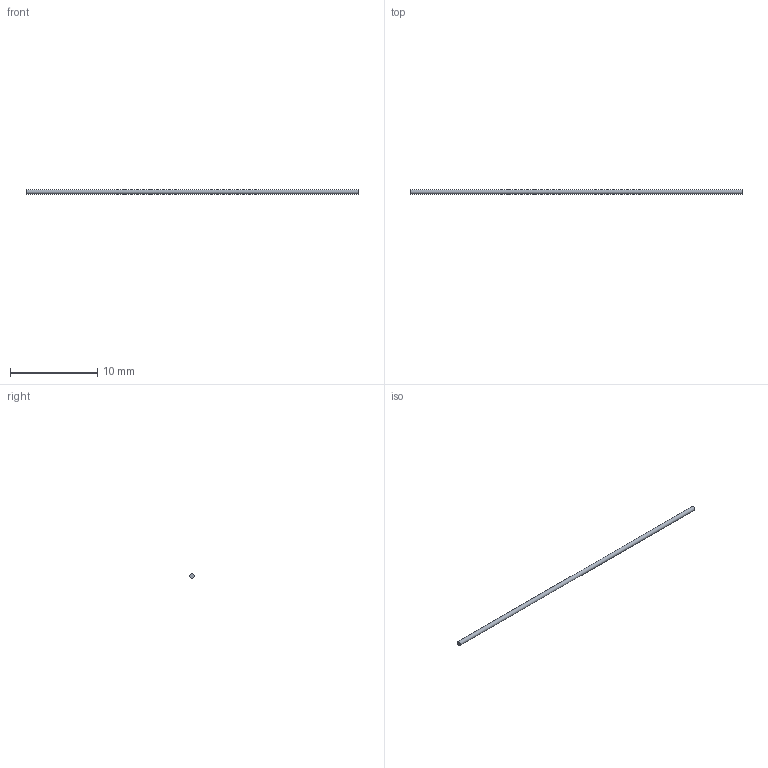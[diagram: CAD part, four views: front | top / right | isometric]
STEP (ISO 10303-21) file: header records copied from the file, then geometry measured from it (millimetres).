
FILE_DESCRIPTION(('FreeCAD Model'),'2;1');
FILE_NAME('Open CASCADE Shape Model','2026-04-07T19:07:43',('FreeCAD'),( 'FreeCAD'),'Open CASCADE STEP processor 7.8','FreeCAD','Unknown');
FILE_SCHEMA(('AUTOMOTIVE_DESIGN { 1 0 10303 214 1 1 1 1 }'));
Length unit declared in the file: millimetre
Products named in the file (1): Open CASCADE STEP translator 7.8 30
Bounding box: 38.1 x 0.5 x 0.5 mm (x, y, z)
Volume: 7.5 mm3; surface area: 60.2 mm2
Topology: 1 solids, 1 shells, 3 faces, 3 edges, 2 vertices
Faces by surface type: plane 2, cylinder 1
Full cylindrical faces by diameter (mm): 0.5 x1
Entity records: 69 total; most frequent: DIRECTION 13, CARTESIAN_POINT 9, AXIS2_PLACEMENT_3D 6, ORIENTED_EDGE 6, ADVANCED_FACE 3, FACE_BOUND 3, EDGE_LOOP 3, EDGE_CURVE 3
